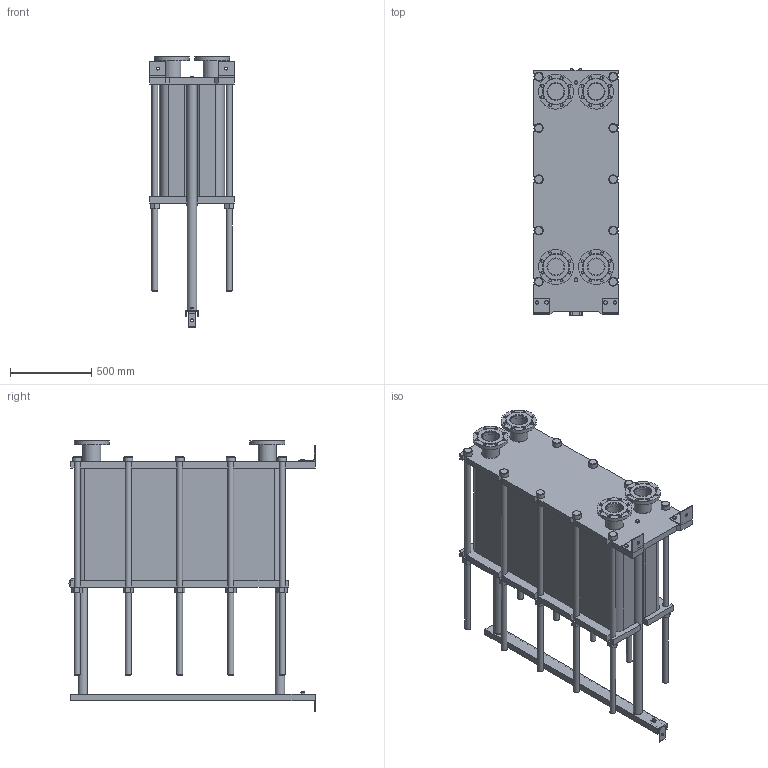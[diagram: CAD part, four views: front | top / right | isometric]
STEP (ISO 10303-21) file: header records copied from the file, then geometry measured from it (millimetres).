
FILE_DESCRIPTION(/* description */ (''),/* implementation_level */ '2;1');
FILE_NAME(/* name */ 'C:\Users\zhuro\Desktop\ENCO\TO\ЭН-04\ЭН-0,5-04-200-1.stp',/* time_stamp */ '2022-06-06T11:03:01+03:00',/* author */ ('zhuro'),/* organization */ (''),/* preprocessor_version */ 'ST-DEVELOPER v18.1',/* originating_system */ 'Autodesk Inventor 2022',/* authorisation */ '');
FILE_SCHEMA (('AUTOMOTIVE_DESIGN { 1 0 10303 214 3 1 1 }'));
Length unit declared in the file: millimetre
Products named in the file (1): ЭН-0,5-04-200-1
Bounding box: 520 x 1510 x 1665 mm (x, y, z)
Volume: 421420695.1 mm3; surface area: 10554271.4 mm2
Topology: 45 solids, 45 shells, 668 faces, 1611 edges, 1048 vertices
Faces by surface type: plane 457, cylinder 166, cone 39, torus 6
Full cylindrical faces by diameter (mm): 8 x4, 10 x2, 16 x8, 18 x35, 36 x25, 40 x2, 42 x1, 45 x4, 54 x10, 57 x2, 60 x10, 68 x2, 100 x4, 110 x8, 215 x4
Entity records: 23607 total; most frequent: CARTESIAN_POINT 7348, DIRECTION 3371, ORIENTED_EDGE 3142, EDGE_CURVE 1571, AXIS2_PLACEMENT_3D 1199, VERTEX_POINT 1044, LINE 973, VECTOR 973
